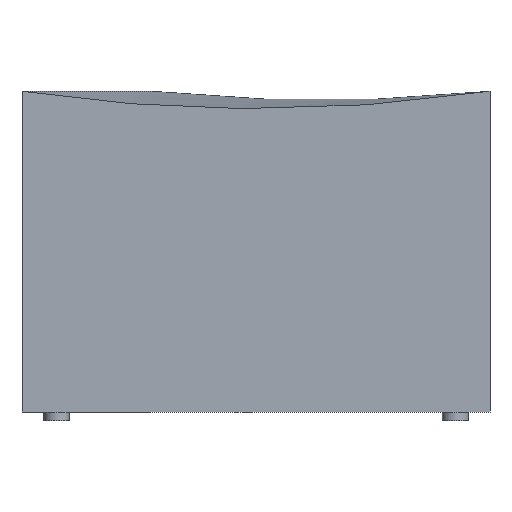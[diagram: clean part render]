
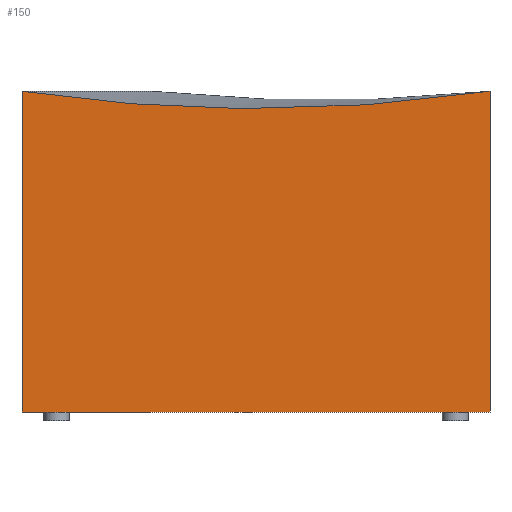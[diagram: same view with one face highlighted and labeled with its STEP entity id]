
A CAD part, left-side view. The second image highlights one B-rep face of the part: STEP entity #150.
In plain terms, the highlighted planar face has unit normal (-1, 0, 0).
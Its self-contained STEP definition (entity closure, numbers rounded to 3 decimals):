
#23=B_SPLINE_CURVE_WITH_KNOTS('',1,(#795,#796),.UNSPECIFIED.,.F.,.F.,(2,
2),(-1080.,0.),.UNSPECIFIED.);
#27=B_SPLINE_CURVE_WITH_KNOTS('',3,(#803,#804,#805,#806,#807),
 .UNSPECIFIED.,.F.,.F.,(4,1,4),(-1082.959,-541.479,0.),
 .UNSPECIFIED.);
#30=B_SPLINE_CURVE_WITH_KNOTS('',1,(#815,#816),.UNSPECIFIED.,.F.,.F.,(2,
2),(0.,740.),.UNSPECIFIED.);
#31=B_SPLINE_CURVE_WITH_KNOTS('',1,(#817,#818),.UNSPECIFIED.,.F.,.F.,(2,
2),(0.,740.),.UNSPECIFIED.);
#150=ADVANCED_FACE('',(#180),#422,.T.);
#180=FACE_OUTER_BOUND('',#210,.T.);
#210=EDGE_LOOP('',(#279,#280,#281,#282));
#279=ORIENTED_EDGE('',*,*,#347,.F.);
#280=ORIENTED_EDGE('',*,*,#339,.T.);
#281=ORIENTED_EDGE('',*,*,#346,.F.);
#282=ORIENTED_EDGE('',*,*,#343,.T.);
#339=EDGE_CURVE('',#392,#393,#23,.T.);
#343=EDGE_CURVE('',#397,#398,#27,.T.);
#346=EDGE_CURVE('',#397,#393,#30,.T.);
#347=EDGE_CURVE('',#392,#398,#31,.T.);
#392=VERTEX_POINT('',#788);
#393=VERTEX_POINT('',#789);
#397=VERTEX_POINT('',#793);
#398=VERTEX_POINT('',#794);
#422=PLANE('',#469);
#469=AXIS2_PLACEMENT_3D('',#784,#495,$);
#495=DIRECTION('',(-1.,0.,0.));
#784=CARTESIAN_POINT('',(1548.834,-1080.,20.));
#788=CARTESIAN_POINT('',(1548.834,0.,20.));
#789=CARTESIAN_POINT('',(1548.834,-1080.,20.));
#793=CARTESIAN_POINT('',(1548.834,-1080.,760.));
#794=CARTESIAN_POINT('',(1548.834,0.,760.));
#795=CARTESIAN_POINT('',(1548.834,0.,20.));
#796=CARTESIAN_POINT('',(1548.834,-1080.,20.));
#803=CARTESIAN_POINT('',(1548.834,-1080.,760.));
#804=CARTESIAN_POINT('',(1548.834,-901.456,733.549));
#805=CARTESIAN_POINT('',(1548.834,-540.,706.451));
#806=CARTESIAN_POINT('',(1548.834,-178.544,733.549));
#807=CARTESIAN_POINT('',(1548.834,0.,760.));
#815=CARTESIAN_POINT('',(1548.834,-1080.,760.));
#816=CARTESIAN_POINT('',(1548.834,-1080.,20.));
#817=CARTESIAN_POINT('',(1548.834,0.,20.));
#818=CARTESIAN_POINT('',(1548.834,0.,760.));
